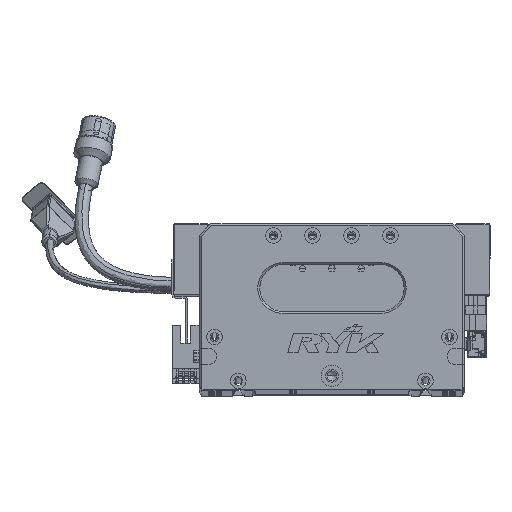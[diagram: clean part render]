
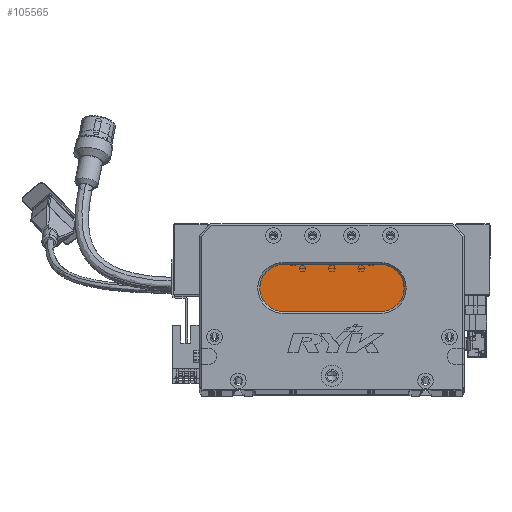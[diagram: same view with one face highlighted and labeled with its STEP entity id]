
A CAD part, top view. The second image highlights one B-rep face of the part: STEP entity #105565.
In plain terms, the highlighted planar face has unit normal (0, 0, 1) as drawn and (0, 0, -1) by its records, which use the part's own axes.
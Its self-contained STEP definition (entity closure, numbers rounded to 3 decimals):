
#2171 = CARTESIAN_POINT ( 'NONE',  ( 93., 40., 13. ) ) ;
#7558 = AXIS2_PLACEMENT_3D ( 'NONE', #34129, #16841, #58282 ) ;
#9731 = CARTESIAN_POINT ( 'NONE',  ( 43., 40., 13. ) ) ;
#10587 = EDGE_LOOP ( 'NONE', ( #73441, #46750, #31183, #89787, #62157 ) ) ;
#11818 = DIRECTION ( 'NONE',  ( 0., 0., -1. ) ) ;
#14701 = LINE ( 'NONE', #2171, #95860 ) ;
#16283 = CIRCLE ( 'NONE', #73933, 12. ) ;
#16841 = DIRECTION ( 'NONE',  ( 0., 0., -1. ) ) ;
#17142 = EDGE_CURVE ( 'NONE', #38939, #66229, #14701, .T. ) ;
#28344 = CARTESIAN_POINT ( 'NONE',  ( 43., 52., 13. ) ) ;
#28705 = DIRECTION ( 'NONE',  ( -1., 0., 0. ) ) ;
#28951 = VERTEX_POINT ( 'NONE', #97197 ) ;
#30843 = DIRECTION ( 'NONE',  ( -1., 0., 0. ) ) ;
#31183 = ORIENTED_EDGE ( 'NONE', *, *, #80781, .T. ) ;
#31233 = EDGE_CURVE ( 'NONE', #88730, #28951, #63995, .T. ) ;
#34129 = CARTESIAN_POINT ( 'NONE',  ( 93., 52., 13. ) ) ;
#38114 = AXIS2_PLACEMENT_3D ( 'NONE', #103862, #71179, #30843 ) ;
#38939 = VERTEX_POINT ( 'NONE', #42548 ) ;
#41797 = DIRECTION ( 'NONE',  ( -1., 0., 0. ) ) ;
#42190 = CIRCLE ( 'NONE', #38114, 12. ) ;
#42548 = CARTESIAN_POINT ( 'NONE',  ( 93., 40., 13. ) ) ;
#46205 = DIRECTION ( 'NONE',  ( 1., 0., 0. ) ) ;
#46750 = ORIENTED_EDGE ( 'NONE', *, *, #17142, .T. ) ;
#48769 = AXIS2_PLACEMENT_3D ( 'NONE', #28344, #11818, #28705 ) ;
#58282 = DIRECTION ( 'NONE',  ( -1., 0., 0. ) ) ;
#62157 = ORIENTED_EDGE ( 'NONE', *, *, #100702, .T. ) ;
#63995 = CIRCLE ( 'NONE', #48769, 12. ) ;
#66229 = VERTEX_POINT ( 'NONE', #9731 ) ;
#69451 = EDGE_CURVE ( 'NONE', #70521, #38939, #16283, .T. ) ;
#70521 = VERTEX_POINT ( 'NONE', #80778 ) ;
#71179 = DIRECTION ( 'NONE',  ( 0., 0., -1. ) ) ;
#73441 = ORIENTED_EDGE ( 'NONE', *, *, #69451, .T. ) ;
#73933 = AXIS2_PLACEMENT_3D ( 'NONE', #83879, #92167, #41797 ) ;
#80778 = CARTESIAN_POINT ( 'NONE',  ( 93., 64., 13. ) ) ;
#80781 = EDGE_CURVE ( 'NONE', #66229, #88730, #42190, .T. ) ;
#83879 = CARTESIAN_POINT ( 'NONE',  ( 93., 52., 13. ) ) ;
#85223 = LINE ( 'NONE', #86830, #94232 ) ;
#86321 = CARTESIAN_POINT ( 'NONE',  ( 31., 52., 13. ) ) ;
#86830 = CARTESIAN_POINT ( 'NONE',  ( 93., 64., 13. ) ) ;
#88730 = VERTEX_POINT ( 'NONE', #86321 ) ;
#89469 = FACE_OUTER_BOUND ( 'NONE', #10587, .T. ) ;
#89787 = ORIENTED_EDGE ( 'NONE', *, *, #31233, .T. ) ;
#92167 = DIRECTION ( 'NONE',  ( 0., 0., -1. ) ) ;
#94232 = VECTOR ( 'NONE', #46205, 1000. ) ;
#95860 = VECTOR ( 'NONE', #101444, 1000. ) ;
#97197 = CARTESIAN_POINT ( 'NONE',  ( 43., 64., 13. ) ) ;
#100702 = EDGE_CURVE ( 'NONE', #28951, #70521, #85223, .T. ) ;
#101444 = DIRECTION ( 'NONE',  ( -1., 0., 0. ) ) ;
#103862 = CARTESIAN_POINT ( 'NONE',  ( 43., 52., 13. ) ) ;
#105004 = PLANE ( 'NONE',  #7558 ) ;
#105565 = ADVANCED_FACE ( 'NONE', ( #89469 ), #105004, .T. ) ;
